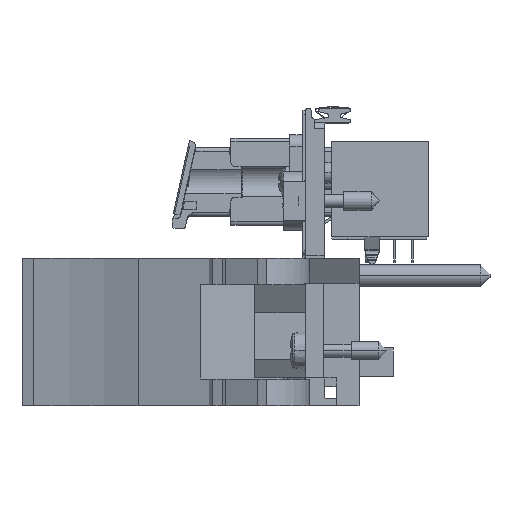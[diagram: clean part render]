
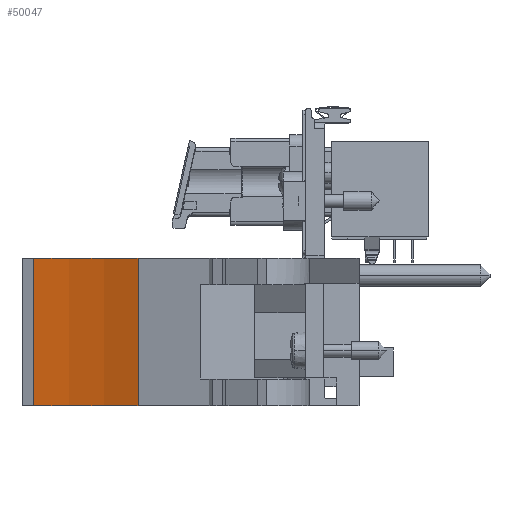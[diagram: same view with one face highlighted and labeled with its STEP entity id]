
A CAD part, front view. The second image highlights one B-rep face of the part: STEP entity #50047.
In plain terms, the highlighted cylindrical face has radius 51.46 mm (diameter 102.919 mm), a partial arc.
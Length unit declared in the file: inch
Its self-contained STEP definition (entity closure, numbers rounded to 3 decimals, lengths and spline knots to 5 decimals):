
#16814=CARTESIAN_POINT('',(-1.97678,-5.95043,0.69599));
#16815=DIRECTION('',(0.,0.,1.));
#16816=DIRECTION('',(0.435,0.9,0.));
#16817=AXIS2_PLACEMENT_3D('',#16814,#16815,#16816);
#17159=CARTESIAN_POINT('',(-1.97678,-5.95043,-0.09201));
#17160=DIRECTION('',(0.,0.,1.));
#17161=DIRECTION('',(0.435,0.9,0.));
#17162=AXIS2_PLACEMENT_3D('',#17159,#17160,#17161);
#17377=DIRECTION('',(0.,0.,1.));
#17378=VECTOR('',#17377,0.788);
#17379=CARTESIAN_POINT('',(-1.65345,-3.95043,-0.09201));
#17380=LINE('',#17379,#17378);
#17385=DIRECTION('',(0.,0.,1.));
#17386=VECTOR('',#17385,0.788);
#17387=CARTESIAN_POINT('',(-1.09548,-4.12619,
-0.09201));
#17388=LINE('',#17387,#17386);
#23255=CARTESIAN_POINT('',(-1.09548,-4.12619,
-0.09201));
#23256=CARTESIAN_POINT('',(-1.65345,-3.95043,-0.09201));
#23257=VERTEX_POINT('',#23255);
#23258=VERTEX_POINT('',#23256);
#23259=CARTESIAN_POINT('',(-1.09548,-4.12619,
0.69599));
#23260=CARTESIAN_POINT('',(-1.65345,-3.95043,0.69599));
#23261=VERTEX_POINT('',#23259);
#23262=VERTEX_POINT('',#23260);
#50035=CARTESIAN_POINT('',(-1.97678,-5.95043,0.69599));
#50036=DIRECTION('',(0.,0.,1.));
#50037=DIRECTION('',(0.,1.,0.));
#50038=AXIS2_PLACEMENT_3D('',#50035,#50036,#50037);
#50039=CYLINDRICAL_SURFACE('',#50038,2.02597);
#50040=ORIENTED_EDGE('',*,*,#49753,.T.);
#50041=ORIENTED_EDGE('',*,*,#50027,.T.);
#50042=ORIENTED_EDGE('',*,*,#49302,.F.);
#50044=ORIENTED_EDGE('',*,*,#50043,.F.);
#50045=EDGE_LOOP('',(#50040,#50041,#50042,#50044));
#50046=FACE_OUTER_BOUND('',#50045,.F.);
#50047=ADVANCED_FACE('',(#50046),#50039,.F.);
#16818=CIRCLE('',#16817,2.02597);
#17163=CIRCLE('',#17162,2.02597);
#49302=EDGE_CURVE('',#23261,#23262,#16818,.T.);
#49753=EDGE_CURVE('',#23257,#23258,#17163,.T.);
#50027=EDGE_CURVE('',#23258,#23262,#17380,.T.);
#50043=EDGE_CURVE('',#23257,#23261,#17388,.T.);
